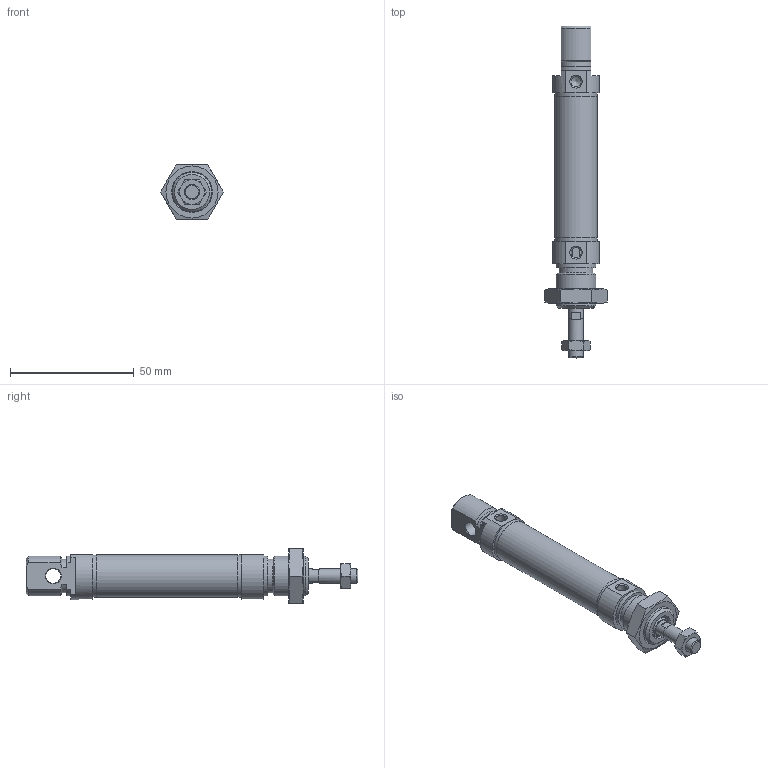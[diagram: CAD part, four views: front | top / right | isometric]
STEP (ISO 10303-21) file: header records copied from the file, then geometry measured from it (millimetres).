
FILE_DESCRIPTION(/* description */ ('Unknown'),/* implementation_level */ '2;1');
FILE_NAME(/* name */ 'RIM 16_25',/* time_stamp */ '2024-08-27T07:08:32+02:00',/* author */ ('Unknown'),/* organization */ ('Unknown'),/* preprocessor_version */ 'ST-DEVELOPER v16.7',/* originating_system */ 'Solid Edge',/* authorisation */ 'Unknown');
FILE_SCHEMA (('AUTOMOTIVE_DESIGN {1 0 10303 214 3 1 1}'));
Length unit declared in the file: millimetre
Products named in the file (7): RIM 16_25; Profilrohr; Kolbenstange; Kit_1; Kit_2; Mutter_1; Mutter_2
Assembly tree (6 placements, depth 2):
  RIM 16_25
    Profilrohr
    Kolbenstange
    Kit_1
    Kit_2
    Mutter_1
    Mutter_2
Bounding box: 25.4 x 134 x 22 mm (x, y, z)
Volume: 23317.4 mm3; surface area: 15990.4 mm2
Topology: 6 solids, 6 shells, 137 faces, 296 edges, 184 vertices
Faces by surface type: plane 57, cone 40, cylinder 33, torus 7
Full cylindrical faces by diameter (mm): 4.12 x1, 4.134 x3, 4.917 x1, 6 x3, 6.5 x1, 7.1 x1, 9 x1, 9.1 x1, 11.1 x1, 11.2 x1, 13.7 x1, 14.376 x1, 16 x4, 17.2 x2, 17.27 x1
Entity records: 4375 total; most frequent: CARTESIAN_POINT 649, DIRECTION 588, ORIENTED_EDGE 458, AXIS2_PLACEMENT_3D 261, EDGE_CURVE 229, FACE_BOUND 213, EDGE_LOOP 212, VERTEX_POINT 172
